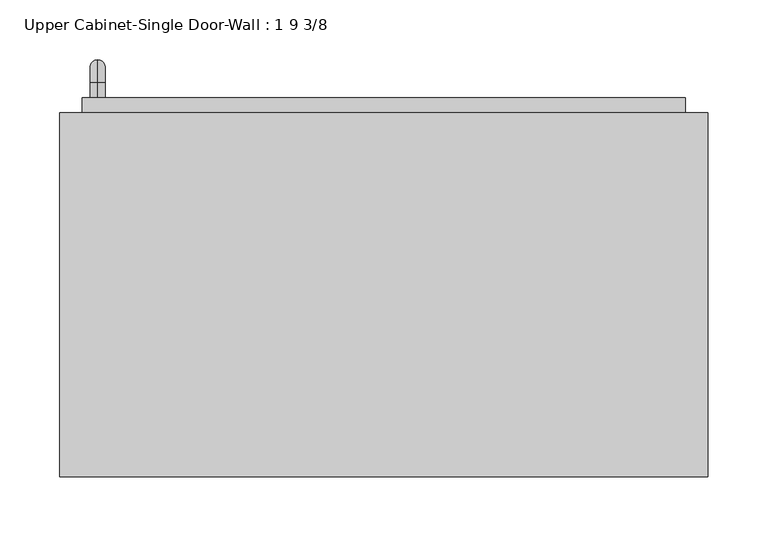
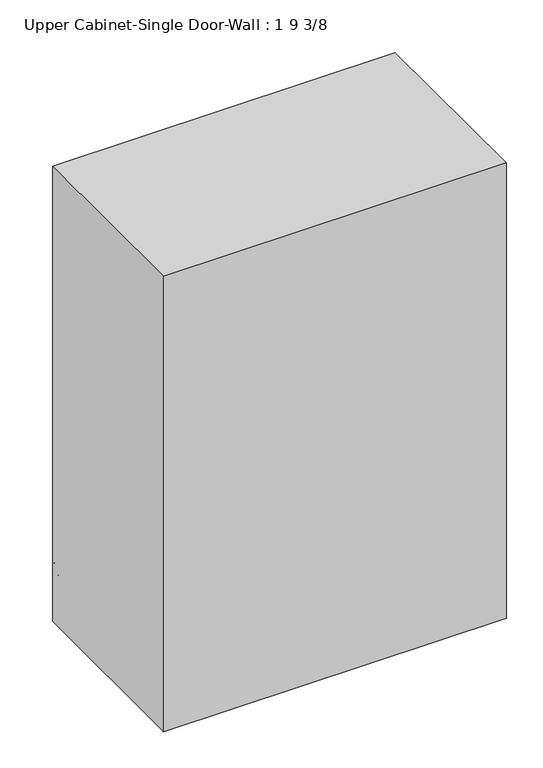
"""IFC4 building model written with IfcOpenShell, lengths in millimetres: furniture geometry, Upper Cabinet-Single Door-Wall : 1 9 3/8."""

from ifc_helpers import new_model, si_unit, point, frame, origin, place, context, project, spatial, polyline, circle_curve, ellipse_curve, trimmed, outline, extrude, faceted_brep, source, transform, mapped, element, save
from ifc_brep_helpers import plane_surface, cylinder_surface, revolved_surface, advanced_brep


def upper_cabinet_single_door_wall_1_9_3_8_7fbd7801(model_context):
    return source(origin(), model_context, "Body", "SolidModel", [
        faceted_brep([(-241.6913372, 57.15, 2133.6), (-241.6913372, 57.15, 1371.6), (301.2336628, 57.15, 1371.6), (301.2336628, 57.15, 2133.6), (-241.6913372, 361.95, 2133.6), (301.2336628, 361.95, 2133.6), (301.2336628, 361.95, 1371.6), (-241.6913372, 361.95, 1371.6), (-222.6413372, 361.95, 2114.55), (-222.6413372, 361.95, 1390.65), (282.1836628, 361.95, 1390.65), (282.1836628, 361.95, 2114.55), (282.1836628, 76.2, 2114.55), (-222.6413372, 76.2, 2114.55), (282.1836628, 76.2, 1390.65), (-222.6413372, 76.2, 1390.65)], [[[0, 1, 2, 3]], [[4, 5, 6, 7], [8, 9, 10, 11]], [[1, 0, 4, 7]], [[2, 1, 7, 6]], [[3, 2, 6, 5]], [[0, 3, 5, 4]], [[8, 11, 12, 13]], [[11, 10, 14, 12]], [[10, 9, 15, 14]], [[9, 8, 13, 15]], [[13, 12, 14, 15]]]),
        advanced_brep(
        [(-209.9413372, 374.65, 1517.65), (-209.9413372, 374.65, 1530.35), (-209.9413372, 387.35, 1517.65), (-209.9413372, 387.35, 1530.35), (-209.9413372, 406.4, 1511.3), (-209.9413372, 393.7, 1511.3), (-209.9413372, 393.7, 1435.1), (-209.9413372, 406.4, 1435.1), (-209.9413372, 387.35, 1416.05), (-209.9413372, 387.35, 1428.75), (-209.9413372, 374.65, 1428.75), (-209.9413372, 374.65, 1416.05)],
        [
            (0, 1, circle_curve(frame((-209.9413372, 374.65, 1524.0), z_axis=(0.0, -1.0, 0.0), x_axis=(0.0, 0.0, 1.0)), 6.35)),
            (1, 0, circle_curve(frame((-209.9413372, 374.65, 1524.0), z_axis=(0.0, -1.0, 0.0), x_axis=(0.0, 0.0, 1.0)), 6.35)),
            (0, 2),
            (2, 3, circle_curve(frame((-209.9413372, 387.35, 1524.0), z_axis=(0.0, -1.0, 0.0), x_axis=(0.0, 0.0, 1.0)), 6.35)),
            (3, 1),
            (3, 2, circle_curve(frame((-209.9413372, 387.35, 1524.0), z_axis=(0.0, -1.0, 0.0), x_axis=(0.0, 0.0, 1.0)), 6.35)),
            (4, 3, circle_curve(frame((-209.9413372, 387.35, 1511.3), z_axis=(1.0, 0.0, 0.0), x_axis=(0.0, 0.0, 1.0)), 19.05)),
            (2, 5, circle_curve(frame((-209.9413372, 387.35, 1511.3), z_axis=(-1.0, 0.0, 0.0), x_axis=(0.0, 0.0, 1.0)), 6.35)),
            (5, 4, circle_curve(frame((-209.9413372, 400.05, 1511.3), z_axis=(0.0, 0.0, 1.0), x_axis=(0.0, 1.0, 0.0)), 6.35)),
            (4, 5, circle_curve(frame((-209.9413372, 400.05, 1511.3), z_axis=(0.0, 0.0, 1.0), x_axis=(0.0, 1.0, 0.0)), 6.35)),
            (5, 6),
            (6, 7, circle_curve(frame((-209.9413372, 400.05, 1435.1), z_axis=(0.0, 0.0, 1.0), x_axis=(0.0, 1.0, 0.0)), 6.35)),
            (7, 4),
            (7, 6, circle_curve(frame((-209.9413372, 400.05, 1435.1), z_axis=(0.0, 0.0, 1.0), x_axis=(0.0, 1.0, 0.0)), 6.35)),
            (8, 7, circle_curve(frame((-209.9413372, 387.35, 1435.1), z_axis=(1.0, 0.0, 0.0), x_axis=(0.0, 1.0, 0.0)), 19.05)),
            (6, 9, circle_curve(frame((-209.9413372, 387.35, 1435.1), z_axis=(-1.0, 0.0, 0.0), x_axis=(0.0, 1.0, 0.0)), 6.35)),
            (9, 8, circle_curve(frame((-209.9413372, 387.35, 1422.4), z_axis=(0.0, 1.0, 0.0), x_axis=(0.0, 0.0, -1.0)), 6.35)),
            (8, 9, circle_curve(frame((-209.9413372, 387.35, 1422.4), z_axis=(0.0, 1.0, 0.0), x_axis=(0.0, 0.0, -1.0)), 6.35)),
            (10, 11, circle_curve(frame((-209.9413372, 374.65, 1422.4), z_axis=(0.0, -1.0, 0.0), x_axis=(0.0, 0.0, -1.0)), 6.35)),
            (11, 10, circle_curve(frame((-209.9413372, 374.65, 1422.4), z_axis=(0.0, -1.0, 0.0), x_axis=(0.0, 0.0, -1.0)), 6.35)),
            (9, 10),
            (11, 8),
        ],
        [
            plane_surface(frame((-216.2913372, 374.65, 1524.0), z_axis=(0.0, -1.0, 0.0), x_axis=(0.0, 0.0, 1.0))),
            cylinder_surface(frame((-209.9413372, 374.65, 1524.0), z_axis=(0.0, -1.0, 0.0), x_axis=(0.0, 0.0, 1.0)), 6.35),
            revolved_surface(trimmed(ellipse_curve(frame((-209.9413372, 387.35, 1524.0), z_axis=(0.0, -1.0, 0.0), x_axis=(0.0, 0.0, 1.0)), 6.35, 6.35), [point((-209.9413372, 387.35, 1517.65))], [point((-209.9413372, 387.35, 1530.35))], True, "CARTESIAN"), (-209.9413372, 387.35, 1511.3), (-1.0, 0.0, 0.0)),
            revolved_surface(trimmed(ellipse_curve(frame((-209.9413372, 387.35, 1524.0), z_axis=(0.0, -1.0, 0.0), x_axis=(0.0, 0.0, 1.0)), 6.35, 6.35), [point((-209.9413372, 387.35, 1530.35))], [point((-209.9413372, 387.35, 1517.65))], True, "CARTESIAN"), (-209.9413372, 387.35, 1511.3), (-1.0, 0.0, 0.0)),
            cylinder_surface(frame((-209.9413372, 400.05, 1511.3), z_axis=(0.0, 0.0, 1.0), x_axis=(0.0, 1.0, 0.0)), 6.35),
            revolved_surface(trimmed(ellipse_curve(frame((-209.9413372, 400.05, 1435.1), z_axis=(0.0, 0.0, 1.0), x_axis=(0.0, 1.0, 0.0)), 6.35, 6.35), [point((-209.9413372, 393.7, 1435.1))], [point((-209.9413372, 406.4, 1435.1))], True, "CARTESIAN"), (-209.9413372, 387.35, 1435.1), (-1.0, 0.0, 0.0)),
            revolved_surface(trimmed(ellipse_curve(frame((-209.9413372, 400.05, 1435.1), z_axis=(0.0, 0.0, 1.0), x_axis=(0.0, 1.0, 0.0)), 6.35, 6.35), [point((-209.9413372, 406.4, 1435.1))], [point((-209.9413372, 393.7, 1435.1))], True, "CARTESIAN"), (-209.9413372, 387.35, 1435.1), (-1.0, 0.0, 0.0)),
            plane_surface(frame((-216.2913372, 374.65, 1422.4), z_axis=(0.0, -1.0, 0.0), x_axis=(0.0, 0.0, -1.0))),
            cylinder_surface(frame((-209.9413372, 387.35, 1422.4), z_axis=(0.0, 1.0, 0.0), x_axis=(0.0, 0.0, -1.0)), 6.35),
        ],
        [
            (0, [[1, 2]]),
            (1, [[-1, 3, 4, 5]]),
            (1, [[-2, -5, 6, -3]]),
            (2, [[7, -4, 8, 9]]),
            (3, [[-8, -6, -7, 10]]),
            (4, [[-9, 11, 12, 13]]),
            (4, [[-10, -13, 14, -11]]),
            (5, [[15, -12, 16, 17]]),
            (6, [[-16, -14, -15, 18]]),
            (7, [[19, 20]]),
            (8, [[-17, 21, -20, 22]]),
            (8, [[-18, -22, -19, -21]]),
        ],
    ),
        extrude(outline(polyline([(-222.6413372, 374.65), (282.1836628, 374.65), (282.1836628, 342.9), (-222.6413372, 342.9), (-222.6413372, 374.65)])), frame((0.0, 0.0, 1390.65), z_axis=(0.0, 0.0, 1.0), x_axis=(1.0, 0.0, 0.0)), (0.0, 0.0, 1.0), 723.9),
    ])


if __name__ == "__main__":
    model = new_model("IFC4")
    model_context = context("Model", 3, world=origin())
    ifc_project = project(units=[si_unit("LENGTHUNIT", "METRE", prefix="MILLI")], contexts=[model_context])
    site = spatial("IfcSite", under=ifc_project)
    building = spatial("IfcBuilding", under=site)
    placement = place(None, origin())
    upper_cabinet_single_door_wall_1_9_3_8_shape = upper_cabinet_single_door_wall_1_9_3_8_7fbd7801(model_context)
    element("IfcFurniture", 1, ObjectType="Upper Cabinet-Single Door-Wall : 1 9 3/8", at=placement, inside=building, context=model_context, shape_type="MappedRepresentation", body=[
        mapped(upper_cabinet_single_door_wall_1_9_3_8_shape, transform((0.0, 0.0, 0.0), x_axis=(1.0, 0.0, 0.0), y_axis=(0.0, 1.0, 0.0), z_axis=(0.0, 0.0, 1.0))),
    ])
    save(model, "model.ifc")
